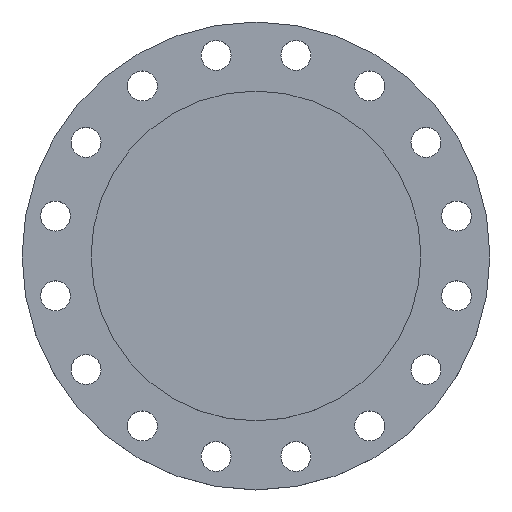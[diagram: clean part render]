
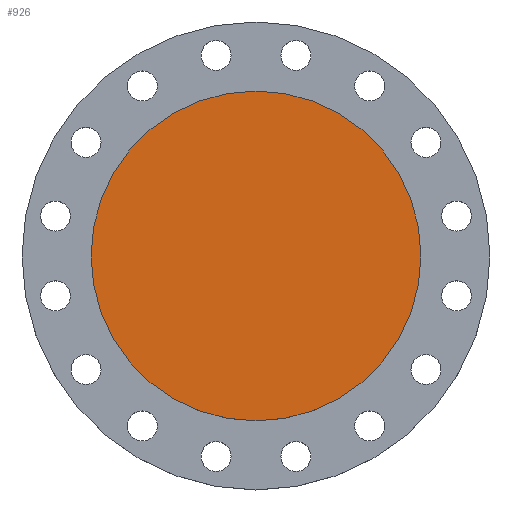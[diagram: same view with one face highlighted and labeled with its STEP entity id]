
A CAD part, top view. The second image highlights one B-rep face of the part: STEP entity #926.
In plain terms, the highlighted planar face has unit normal (0, 0, 1).
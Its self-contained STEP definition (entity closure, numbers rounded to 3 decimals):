
#76 = AXIS2_PLACEMENT_3D ( 'NONE', #1105, #1104, #1102 ) ;
#95 = CARTESIAN_POINT ( 'NONE',  ( -181.5, 0., 0. ) ) ;
#453 = VERTEX_POINT ( 'NONE', #95 ) ;
#636 = EDGE_LOOP ( 'NONE', ( #1332, #1333 ) ) ;
#743 = AXIS2_PLACEMENT_3D ( 'NONE', #875, #873, #872 ) ;
#769 = CARTESIAN_POINT ( 'NONE',  ( 181.5, 0., 0. ) ) ;
#797 = CIRCLE ( 'NONE', #944, 181.5 ) ;
#821 = EDGE_CURVE ( 'NONE', #1045, #453, #1393, .T. ) ;
#872 = DIRECTION ( 'NONE',  ( 1., 0., 0. ) ) ;
#873 = DIRECTION ( 'NONE',  ( 0., 0., 1. ) ) ;
#875 = CARTESIAN_POINT ( 'NONE',  ( 0., 0., 0. ) ) ;
#877 = PLANE ( 'NONE',  #743 ) ;
#881 = FACE_OUTER_BOUND ( 'NONE', #636, .T. ) ;
#895 = EDGE_CURVE ( 'NONE', #453, #1045, #797, .T. ) ;
#922 = DIRECTION ( 'NONE',  ( -1., 0., 0. ) ) ;
#924 = DIRECTION ( 'NONE',  ( 0., 0., -1. ) ) ;
#925 = CARTESIAN_POINT ( 'NONE',  ( 0., 0., 0. ) ) ;
#926 = ADVANCED_FACE ( 'NONE', ( #881 ), #877, .T. ) ;
#944 = AXIS2_PLACEMENT_3D ( 'NONE', #925, #924, #922 ) ;
#1045 = VERTEX_POINT ( 'NONE', #769 ) ;
#1102 = DIRECTION ( 'NONE',  ( -1., 0., 0. ) ) ;
#1104 = DIRECTION ( 'NONE',  ( 0., 0., -1. ) ) ;
#1105 = CARTESIAN_POINT ( 'NONE',  ( 0., 0., 0. ) ) ;
#1332 = ORIENTED_EDGE ( 'NONE', *, *, #895, .F. ) ;
#1333 = ORIENTED_EDGE ( 'NONE', *, *, #821, .F. ) ;
#1393 = CIRCLE ( 'NONE', #76, 181.5 ) ;
